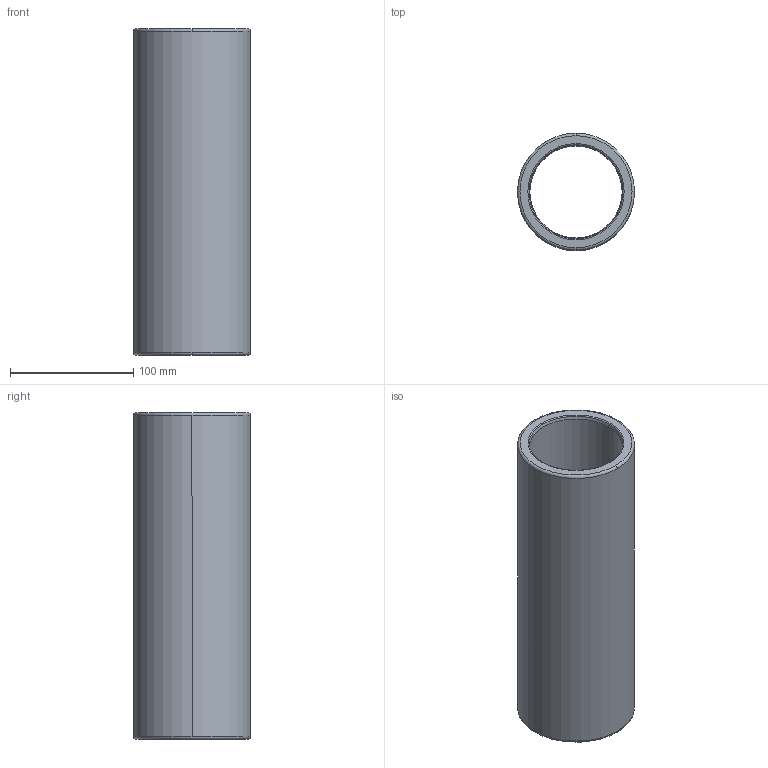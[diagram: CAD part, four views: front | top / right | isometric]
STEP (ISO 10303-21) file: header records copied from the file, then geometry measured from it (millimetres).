
FILE_DESCRIPTION((''),'2;1');
FILE_NAME('B30_063_265.stp','2009-01-12T10:42:47',(''),(''),'Mechanical Desktop 2009','Mechanical Desktop 2009',', , ');
FILE_SCHEMA(('CONFIG_CONTROL_DESIGN'));
Length unit declared in the file: millimetre
Products named in the file (2): Product; blmdl1
Assembly tree (1 placements, depth 2):
  Product
    blmdl1
Bounding box: 94.98 x 94.98 x 265 mm (x, y, z)
Volume: 707040.3 mm3; surface area: 145886.9 mm2
Topology: 1 solids, 1 shells, 18 faces, 48 edges, 32 vertices
Faces by surface type: torus 8, cylinder 4, cone 4, plane 2
Entity records: 705 total; most frequent: DIRECTION 128, CARTESIAN_POINT 100, ORIENTED_EDGE 96, AXIS2_PLACEMENT_3D 60, EDGE_CURVE 48, CIRCLE 40, VERTEX_POINT 32, EDGE_LOOP 20
